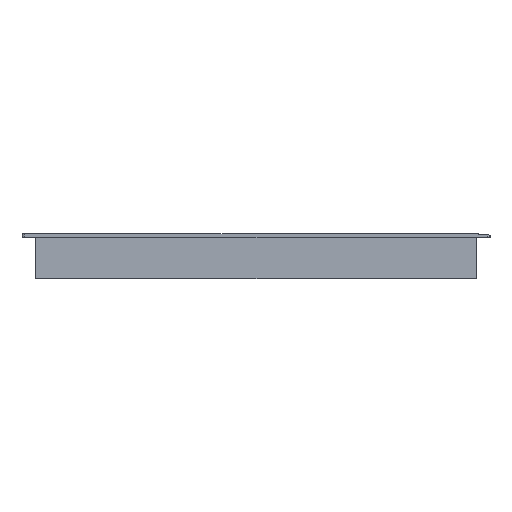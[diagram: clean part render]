
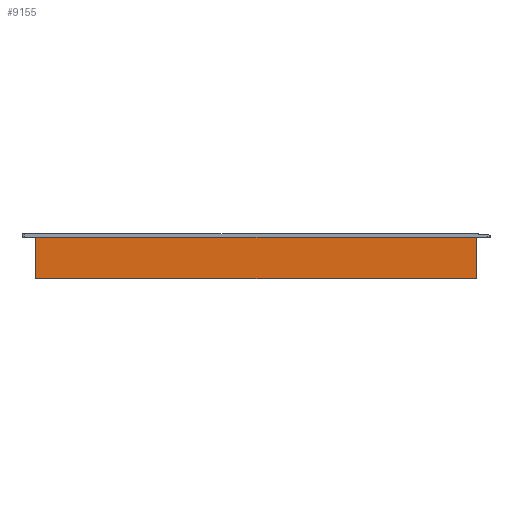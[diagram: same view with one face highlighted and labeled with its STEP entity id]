
A CAD part, left-side view. The second image highlights one B-rep face of the part: STEP entity #9155.
In plain terms, the highlighted planar face has unit normal (-1, 0, 0).
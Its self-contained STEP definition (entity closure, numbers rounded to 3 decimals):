
#9116=CARTESIAN_POINT('Axis2P3D Location',(-275.,240.,0.)) ;
#9121=CARTESIAN_POINT('Line Origine',(-275.,0.,-49.1)) ;
#9125=CARTESIAN_POINT('Vertex',(-275.,240.,-49.1)) ;
#9127=CARTESIAN_POINT('Vertex',(-275.,-240.,-49.1)) ;
#9130=CARTESIAN_POINT('Line Origine',(-275.,-240.,-26.55)) ;
#9134=CARTESIAN_POINT('Vertex',(-275.,-240.,-4.)) ;
#9137=CARTESIAN_POINT('Line Origine',(-275.,0.,-4.)) ;
#9141=CARTESIAN_POINT('Vertex',(-275.,240.,-4.)) ;
#9144=CARTESIAN_POINT('Line Origine',(-275.,240.,-26.55)) ;
#9117=DIRECTION('Axis2P3D Direction',(1.,0.,0.)) ;
#9118=DIRECTION('Axis2P3D XDirection',(0.,-1.,0.)) ;
#9122=DIRECTION('Vector Direction',(0.,-1.,0.)) ;
#9131=DIRECTION('Vector Direction',(0.,0.,-1.)) ;
#9138=DIRECTION('Vector Direction',(0.,-1.,0.)) ;
#9145=DIRECTION('Vector Direction',(0.,0.,-1.)) ;
#9119=AXIS2_PLACEMENT_3D('Plane Axis2P3D',#9116,#9117,#9118) ;
#9150=ORIENTED_EDGE('',*,*,#9129,.T.) ;
#9151=ORIENTED_EDGE('',*,*,#9136,.F.) ;
#9152=ORIENTED_EDGE('',*,*,#9143,.F.) ;
#9153=ORIENTED_EDGE('',*,*,#9148,.T.) ;
#9123=VECTOR('Line Direction',#9122,1.) ;
#9132=VECTOR('Line Direction',#9131,1.) ;
#9139=VECTOR('Line Direction',#9138,1.) ;
#9146=VECTOR('Line Direction',#9145,1.) ;
#9155=ADVANCED_FACE('PartBody',(#9154),#9120,.F.) ;
#9129=EDGE_CURVE('',#9126,#9128,#9124,.T.) ;
#9136=EDGE_CURVE('',#9135,#9128,#9133,.T.) ;
#9143=EDGE_CURVE('',#9142,#9135,#9140,.T.) ;
#9148=EDGE_CURVE('',#9142,#9126,#9147,.T.) ;
#9149=EDGE_LOOP('',(#9150,#9151,#9152,#9153)) ;
#9154=FACE_OUTER_BOUND('',#9149,.T.) ;
#9124=LINE('Line',#9121,#9123) ;
#9133=LINE('Line',#9130,#9132) ;
#9140=LINE('Line',#9137,#9139) ;
#9147=LINE('Line',#9144,#9146) ;
#9120=PLANE('',#9119) ;
#9126=VERTEX_POINT('',#9125) ;
#9128=VERTEX_POINT('',#9127) ;
#9135=VERTEX_POINT('',#9134) ;
#9142=VERTEX_POINT('',#9141) ;
